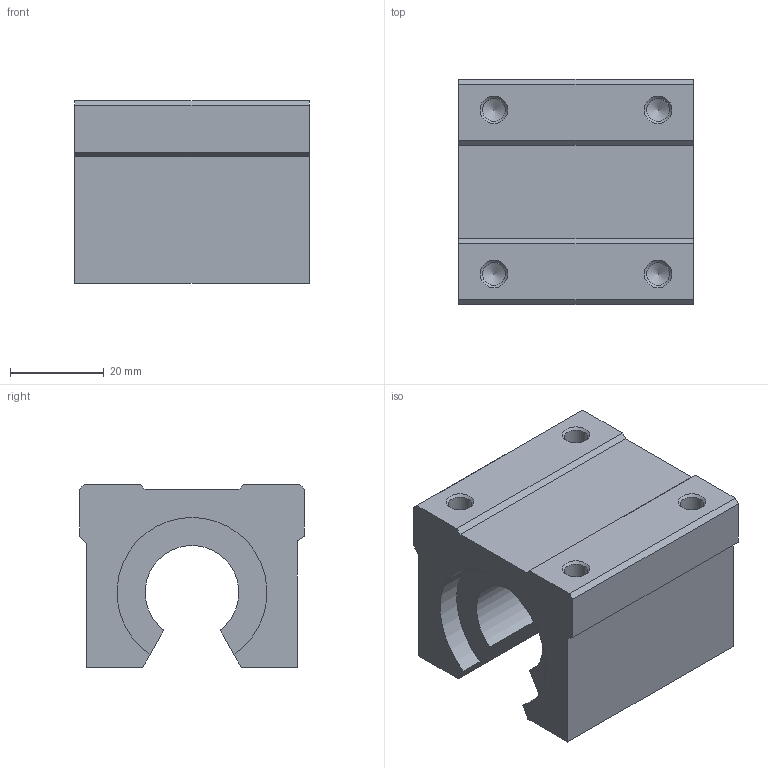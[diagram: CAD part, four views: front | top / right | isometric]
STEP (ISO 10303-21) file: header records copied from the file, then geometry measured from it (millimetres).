
FILE_DESCRIPTION(/* description */ (''),/* implementation_level */ '2;1');
FILE_NAME(/* name */ 'C:\Users\Nick_2\Dropbox\WG Projekte\Kamp und Kötter\Artikel\Linearführung D20\02_STEP-Dateien\Linearwagen D20.stp',/* time_stamp */ '2016-09-27T19:31:16+02:00',/* author */ ('Nick_2'),/* organization */ (''),/* preprocessor_version */ 'ST-DEVELOPER v15.6',/* originating_system */ 'Autodesk Inventor 2015',/* authorisation */ '');
FILE_SCHEMA (('AUTOMOTIVE_DESIGN { 1 0 10303 214 3 1 1 }'));
Length unit declared in the file: millimetre
Products named in the file (1): Linearwagen D20
Bounding box: 50 x 48 x 39 mm (x, y, z)
Volume: 62077.8 mm3; surface area: 14516.6 mm2
Topology: 1 solids, 1 shells, 36 faces, 94 edges, 60 vertices
Faces by surface type: plane 21, cone 8, cylinder 7
Full cylindrical faces by diameter (mm): 4.917 x4
Entity records: 1020 total; most frequent: CARTESIAN_POINT 171, DIRECTION 170, ORIENTED_EDGE 156, EDGE_CURVE 78, LINE 60, VECTOR 60, VERTEX_POINT 56, AXIS2_PLACEMENT_3D 55
